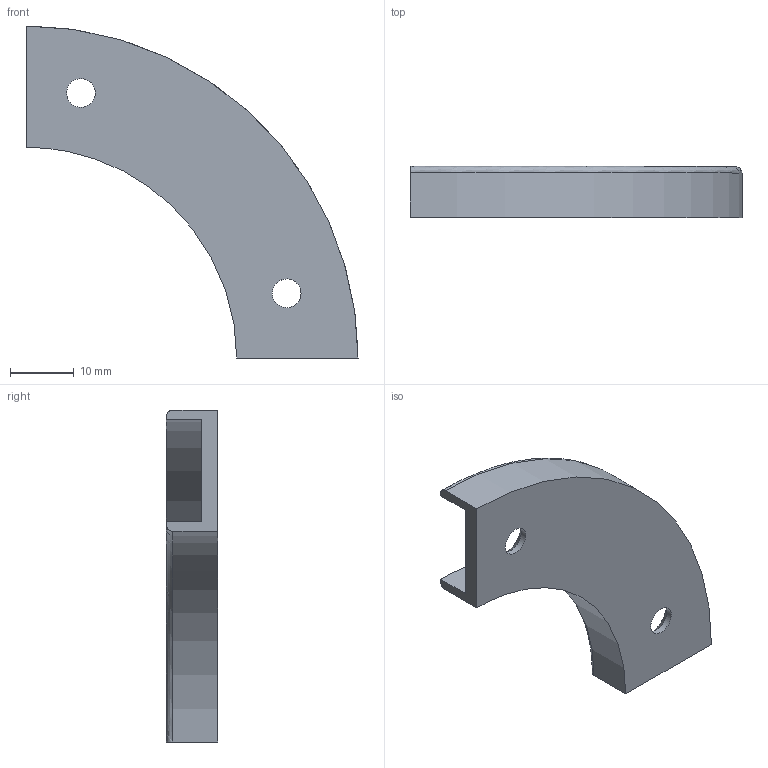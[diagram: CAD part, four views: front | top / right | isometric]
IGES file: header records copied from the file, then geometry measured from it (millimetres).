
Global section: file name: turnguide; native system: Autodesk Inventor 2015; preprocessor: unknown; author: uidn2323; date: 20160121.104857; units: millimetre
Bounding box: 52 x 8 x 52 mm (x, y, z)
Volume: 4125.3 mm3; surface area: 4397.4 mm2
Topology: 1 solids, 1 shells, 16 faces, 40 edges, 26 vertices
Faces by surface type: bspline 16
